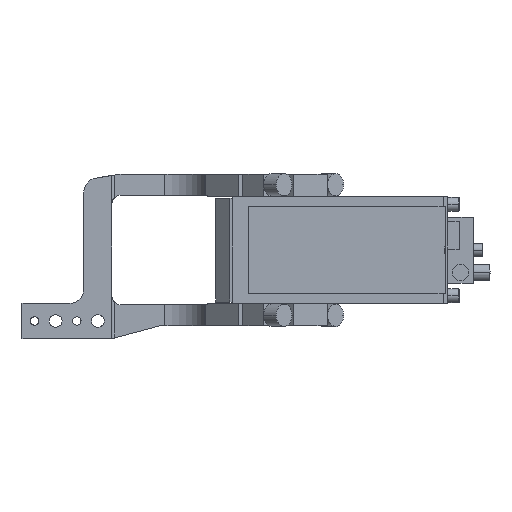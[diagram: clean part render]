
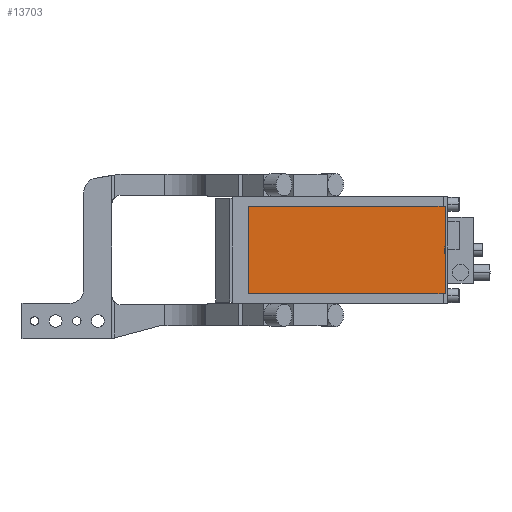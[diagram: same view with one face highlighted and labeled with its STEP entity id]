
A CAD part, left-side view. The second image highlights one B-rep face of the part: STEP entity #13703.
In plain terms, the highlighted planar face has unit normal (-1, 0, 0).
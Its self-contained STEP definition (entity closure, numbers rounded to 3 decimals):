
#237 = CARTESIAN_POINT ( 'NONE',  ( -402., 18., -31. ) ) ;
#434 = ORIENTED_EDGE ( 'NONE', *, *, #12914, .T. ) ;
#608 = DIRECTION ( 'NONE',  ( 0., 1., 0. ) ) ;
#1039 = ORIENTED_EDGE ( 'NONE', *, *, #4135, .T. ) ;
#1727 = EDGE_CURVE ( 'NONE', #8289, #13180, #6156, .T. ) ;
#1871 = CARTESIAN_POINT ( 'NONE',  ( -402., -52., -31. ) ) ;
#2760 = CARTESIAN_POINT ( 'NONE',  ( -402., -122., 31. ) ) ;
#3116 = EDGE_LOOP ( 'NONE', ( #434, #12161, #7860, #1039 ) ) ;
#3282 = LINE ( 'NONE', #4351, #12387 ) ;
#3514 = PLANE ( 'NONE',  #11619 ) ;
#3865 = VECTOR ( 'NONE', #608, 1000. ) ;
#3898 = VECTOR ( 'NONE', #9796, 1000. ) ;
#4135 = EDGE_CURVE ( 'NONE', #13180, #6030, #8992, .T. ) ;
#4351 = CARTESIAN_POINT ( 'NONE',  ( -402., -122., 0. ) ) ;
#4365 = LINE ( 'NONE', #1871, #3898 ) ;
#4382 = DIRECTION ( 'NONE',  ( 0., 0., 1. ) ) ;
#5128 = VERTEX_POINT ( 'NONE', #13111 ) ;
#6030 = VERTEX_POINT ( 'NONE', #237 ) ;
#6156 = LINE ( 'NONE', #10475, #3865 ) ;
#7160 = EDGE_CURVE ( 'NONE', #5128, #8289, #3282, .T. ) ;
#7354 = DIRECTION ( 'NONE',  ( 0., 0., 1. ) ) ;
#7706 = CARTESIAN_POINT ( 'NONE',  ( -402., 18., 31. ) ) ;
#7860 = ORIENTED_EDGE ( 'NONE', *, *, #1727, .T. ) ;
#8289 = VERTEX_POINT ( 'NONE', #2760 ) ;
#8992 = LINE ( 'NONE', #13487, #13181 ) ;
#9015 = DIRECTION ( 'NONE',  ( -1., 0., 0. ) ) ;
#9796 = DIRECTION ( 'NONE',  ( 0., -1., 0. ) ) ;
#10475 = CARTESIAN_POINT ( 'NONE',  ( -402., -52., 31. ) ) ;
#11619 = AXIS2_PLACEMENT_3D ( 'NONE', #14369, #9015, #4382 ) ;
#12161 = ORIENTED_EDGE ( 'NONE', *, *, #7160, .T. ) ;
#12379 = DIRECTION ( 'NONE',  ( 0., 0., -1. ) ) ;
#12387 = VECTOR ( 'NONE', #7354, 1000. ) ;
#12914 = EDGE_CURVE ( 'NONE', #6030, #5128, #4365, .T. ) ;
#13075 = FACE_OUTER_BOUND ( 'NONE', #3116, .T. ) ;
#13111 = CARTESIAN_POINT ( 'NONE',  ( -402., -122., -31. ) ) ;
#13180 = VERTEX_POINT ( 'NONE', #7706 ) ;
#13181 = VECTOR ( 'NONE', #12379, 1000. ) ;
#13487 = CARTESIAN_POINT ( 'NONE',  ( -402., 18., 0. ) ) ;
#13703 = ADVANCED_FACE ( 'NONE', ( #13075 ), #3514, .T. ) ;
#14369 = CARTESIAN_POINT ( 'NONE',  ( -402., 0., 0. ) ) ;
